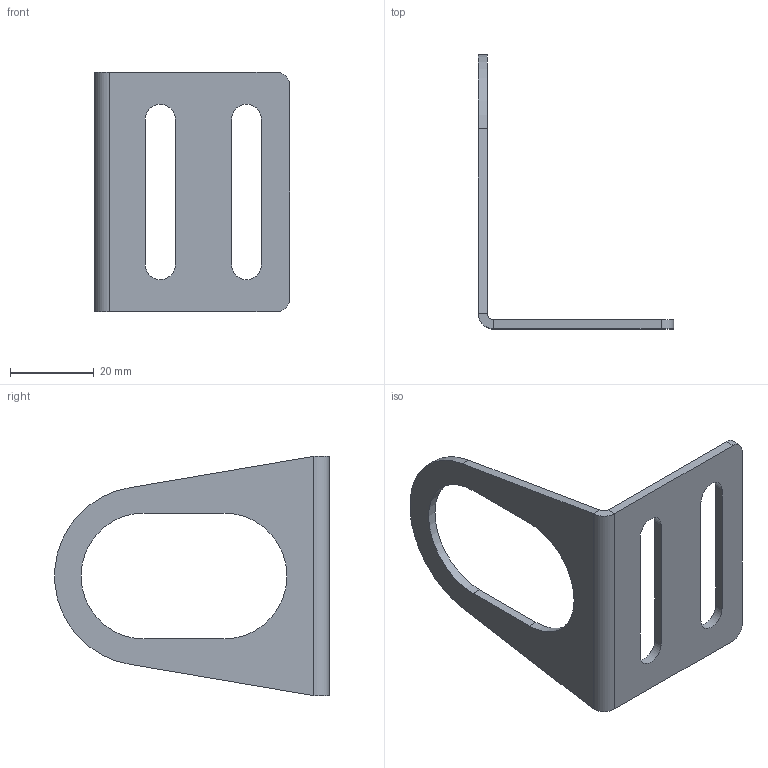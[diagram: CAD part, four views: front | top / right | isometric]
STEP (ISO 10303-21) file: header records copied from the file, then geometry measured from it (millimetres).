
FILE_DESCRIPTION (( 'STEP AP214' ), '1' );
FILE_NAME ('PB30-M3.STEP', '2016-04-08T17:48:17', ( '' ), ( '' ), 'SwSTEP 2.0', 'SolidWorks 2015', '' );
FILE_SCHEMA (( 'AUTOMOTIVE_DESIGN' ));
Length unit declared in the file: millimetre
Products named in the file (1): PB30-M3
Bounding box: 46.66 x 65.59 x 57.2 mm (x, y, z)
Volume: 7749 mm3; surface area: 8503.7 mm2
Topology: 1 solids, 1 shells, 30 faces, 76 edges, 48 vertices
Faces by surface type: plane 17, cylinder 13
Entity records: 948 total; most frequent: DIRECTION 164, CARTESIAN_POINT 155, ORIENTED_EDGE 152, EDGE_CURVE 76, AXIS2_PLACEMENT_3D 57, VECTOR 50, LINE 50, VERTEX_POINT 48
